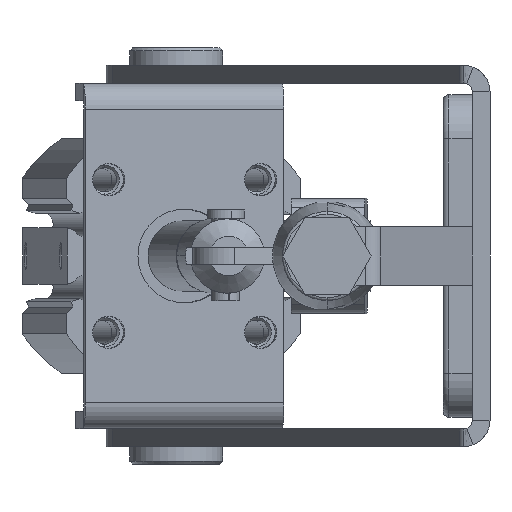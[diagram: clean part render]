
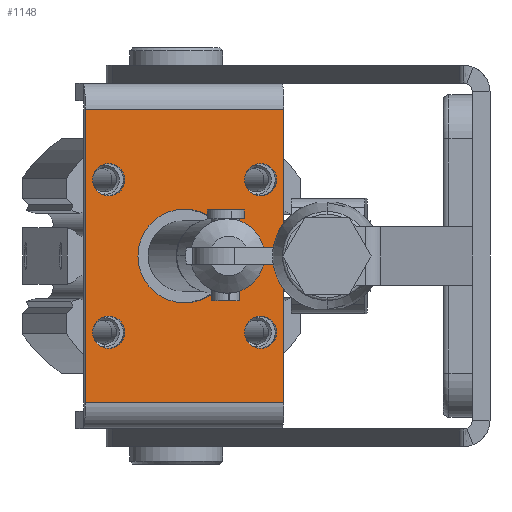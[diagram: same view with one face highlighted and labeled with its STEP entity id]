
A CAD part, left-side view. The second image highlights one B-rep face of the part: STEP entity #1148.
In plain terms, the highlighted planar face has unit normal (-0.996, -0.085, 0) as drawn and (0, -1, 0) by its records, which use the part's own axes.
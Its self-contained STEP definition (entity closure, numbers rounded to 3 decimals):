
#106 = ORIENTED_EDGE ( 'NONE', *, *, #12190, .F. ) ;
#239 = VERTEX_POINT ( 'NONE', #25806 ) ;
#877 = CARTESIAN_POINT ( 'NONE',  ( -13., -3., 13. ) ) ;
#901 = AXIS2_PLACEMENT_3D ( 'NONE', #18131, #5400, #20264 ) ;
#1128 = CARTESIAN_POINT ( 'NONE',  ( -25., -3., 17. ) ) ;
#1148 = ADVANCED_FACE ( 'NONE', ( #13704, #24336, #2394, #18689, #13063, #7397 ), #24212, .F. ) ;
#1550 = AXIS2_PLACEMENT_3D ( 'NONE', #23145, #10411, #25282 ) ;
#2208 = AXIS2_PLACEMENT_3D ( 'NONE', #20695, #7970, #22838 ) ;
#2394 = FACE_BOUND ( 'NONE', #10707, .T. ) ;
#2416 = VERTEX_POINT ( 'NONE', #21609 ) ;
#2542 = EDGE_CURVE ( 'NONE', #12567, #23686, #3305, .T. ) ;
#2618 = EDGE_LOOP ( 'NONE', ( #25121, #106, #24563, #9835 ) ) ;
#2992 = CIRCLE ( 'NONE', #16985, 2.75 ) ;
#2997 = DIRECTION ( 'NONE',  ( 0., 0., 1. ) ) ;
#3233 = DIRECTION ( 'NONE',  ( 1., 0., 0. ) ) ;
#3269 = ORIENTED_EDGE ( 'NONE', *, *, #20793, .T. ) ;
#3305 = CIRCLE ( 'NONE', #19838, 2.75 ) ;
#3397 = VERTEX_POINT ( 'NONE', #17470 ) ;
#3472 = DIRECTION ( 'NONE',  ( 0., 0., -1. ) ) ;
#3672 = CIRCLE ( 'NONE', #26827, 2.75 ) ;
#3705 = EDGE_CURVE ( 'NONE', #18474, #3397, #15908, .T. ) ;
#4147 = ORIENTED_EDGE ( 'NONE', *, *, #27205, .T. ) ;
#4602 = AXIS2_PLACEMENT_3D ( 'NONE', #20518, #7807, #22648 ) ;
#4885 = AXIS2_PLACEMENT_3D ( 'NONE', #19878, #7177, #22018 ) ;
#5179 = CARTESIAN_POINT ( 'NONE',  ( -13., -3., 13. ) ) ;
#5400 = DIRECTION ( 'NONE',  ( 0., 1., 0. ) ) ;
#5403 = VERTEX_POINT ( 'NONE', #22336 ) ;
#5545 = EDGE_CURVE ( 'NONE', #9099, #5403, #10581, .T. ) ;
#5771 = ORIENTED_EDGE ( 'NONE', *, *, #10231, .T. ) ;
#5989 = ORIENTED_EDGE ( 'NONE', *, *, #24398, .T. ) ;
#6046 = EDGE_CURVE ( 'NONE', #23794, #2416, #12554, .T. ) ;
#6079 = ORIENTED_EDGE ( 'NONE', *, *, #6046, .T. ) ;
#6201 = ORIENTED_EDGE ( 'NONE', *, *, #11785, .T. ) ;
#6525 = CARTESIAN_POINT ( 'NONE',  ( -13., -3., 10.25 ) ) ;
#7032 = CARTESIAN_POINT ( 'NONE',  ( -13., -3., 15.75 ) ) ;
#7177 = DIRECTION ( 'NONE',  ( 0., 1., 0. ) ) ;
#7333 = DIRECTION ( 'NONE',  ( 0., 0., 1. ) ) ;
#7397 = FACE_BOUND ( 'NONE', #16428, .T. ) ;
#7411 = CIRCLE ( 'NONE', #15868, 2.75 ) ;
#7807 = DIRECTION ( 'NONE',  ( 0., 1., 0. ) ) ;
#7970 = DIRECTION ( 'NONE',  ( 0., 1., 0. ) ) ;
#8014 = VECTOR ( 'NONE', #3472, 1000. ) ;
#9099 = VERTEX_POINT ( 'NONE', #21488 ) ;
#9511 = CARTESIAN_POINT ( 'NONE',  ( 13., -3., -15.75 ) ) ;
#9835 = ORIENTED_EDGE ( 'NONE', *, *, #5545, .F. ) ;
#10028 = CARTESIAN_POINT ( 'NONE',  ( 0., -3., 0. ) ) ;
#10064 = DIRECTION ( 'NONE',  ( 0., 1., 0. ) ) ;
#10231 = EDGE_CURVE ( 'NONE', #3397, #18474, #11085, .T. ) ;
#10411 = DIRECTION ( 'NONE',  ( 0., 1., 0. ) ) ;
#10581 = LINE ( 'NONE', #14452, #15554 ) ;
#10707 = EDGE_LOOP ( 'NONE', ( #5989, #6079 ) ) ;
#11085 = CIRCLE ( 'NONE', #901, 2.75 ) ;
#11214 = DIRECTION ( 'NONE',  ( 0., 0., 1. ) ) ;
#11785 = EDGE_CURVE ( 'NONE', #23694, #24086, #7411, .T. ) ;
#12083 = DIRECTION ( 'NONE',  ( 0., 1., 0. ) ) ;
#12177 = DIRECTION ( 'NONE',  ( 0., 0., 1. ) ) ;
#12190 = EDGE_CURVE ( 'NONE', #21740, #239, #12721, .T. ) ;
#12554 = CIRCLE ( 'NONE', #1550, 2.75 ) ;
#12567 = VERTEX_POINT ( 'NONE', #6525 ) ;
#12721 = LINE ( 'NONE', #18104, #23355 ) ;
#12866 = CARTESIAN_POINT ( 'NONE',  ( -13., -3., -15.75 ) ) ;
#13063 = FACE_OUTER_BOUND ( 'NONE', #2618, .T. ) ;
#13693 = EDGE_CURVE ( 'NONE', #23686, #12567, #2992, .T. ) ;
#13704 = FACE_BOUND ( 'NONE', #24946, .T. ) ;
#13809 = AXIS2_PLACEMENT_3D ( 'NONE', #10028, #24907, #12177 ) ;
#13861 = EDGE_CURVE ( 'NONE', #14943, #25589, #16633, .T. ) ;
#14004 = CIRCLE ( 'NONE', #4602, 2.75 ) ;
#14452 = CARTESIAN_POINT ( 'NONE',  ( -44.322, -3., -17. ) ) ;
#14771 = ORIENTED_EDGE ( 'NONE', *, *, #2542, .T. ) ;
#14847 = AXIS2_PLACEMENT_3D ( 'NONE', #16118, #23935, #11214 ) ;
#14943 = VERTEX_POINT ( 'NONE', #16933 ) ;
#15015 = VECTOR ( 'NONE', #25917, 1000. ) ;
#15143 = CARTESIAN_POINT ( 'NONE',  ( 25., -3., -10.757 ) ) ;
#15554 = VECTOR ( 'NONE', #27292, 1000. ) ;
#15735 = DIRECTION ( 'NONE',  ( 0., 1., 0. ) ) ;
#15868 = AXIS2_PLACEMENT_3D ( 'NONE', #22808, #10064, #24940 ) ;
#15908 = CIRCLE ( 'NONE', #4885, 2.75 ) ;
#16039 = ORIENTED_EDGE ( 'NONE', *, *, #13693, .T. ) ;
#16118 = CARTESIAN_POINT ( 'NONE',  ( 47.565, -3., -10.757 ) ) ;
#16428 = EDGE_LOOP ( 'NONE', ( #3269, #25348 ) ) ;
#16633 = CIRCLE ( 'NONE', #2208, 8. ) ;
#16933 = CARTESIAN_POINT ( 'NONE',  ( 0., -3., -8. ) ) ;
#16985 = AXIS2_PLACEMENT_3D ( 'NONE', #5179, #20044, #7333 ) ;
#17470 = CARTESIAN_POINT ( 'NONE',  ( 13., -3., 10.25 ) ) ;
#17830 = CIRCLE ( 'NONE', #13809, 8. ) ;
#18104 = CARTESIAN_POINT ( 'NONE',  ( -44.322, -3., 17. ) ) ;
#18131 = CARTESIAN_POINT ( 'NONE',  ( 13., -3., 13. ) ) ;
#18474 = VERTEX_POINT ( 'NONE', #24865 ) ;
#18689 = FACE_BOUND ( 'NONE', #26701, .T. ) ;
#19838 = AXIS2_PLACEMENT_3D ( 'NONE', #877, #15735, #2997 ) ;
#19878 = CARTESIAN_POINT ( 'NONE',  ( 13., -3., 13. ) ) ;
#20044 = DIRECTION ( 'NONE',  ( 0., 1., 0. ) ) ;
#20264 = DIRECTION ( 'NONE',  ( 0., 0., 1. ) ) ;
#20518 = CARTESIAN_POINT ( 'NONE',  ( 13., -3., -13. ) ) ;
#20633 = ORIENTED_EDGE ( 'NONE', *, *, #3705, .T. ) ;
#20640 = LINE ( 'NONE', #15143, #15015 ) ;
#20695 = CARTESIAN_POINT ( 'NONE',  ( 0., -3., 0. ) ) ;
#20793 = EDGE_CURVE ( 'NONE', #25589, #14943, #17830, .T. ) ;
#21488 = CARTESIAN_POINT ( 'NONE',  ( 25., -3., -17. ) ) ;
#21609 = CARTESIAN_POINT ( 'NONE',  ( 13., -3., -10.25 ) ) ;
#21740 = VERTEX_POINT ( 'NONE', #1128 ) ;
#22018 = DIRECTION ( 'NONE',  ( 0., 0., 1. ) ) ;
#22290 = LINE ( 'NONE', #22611, #8014 ) ;
#22336 = CARTESIAN_POINT ( 'NONE',  ( -25., -3., -17. ) ) ;
#22611 = CARTESIAN_POINT ( 'NONE',  ( -25., -3., -10.757 ) ) ;
#22648 = DIRECTION ( 'NONE',  ( 0., 0., 1. ) ) ;
#22808 = CARTESIAN_POINT ( 'NONE',  ( -13., -3., -13. ) ) ;
#22838 = DIRECTION ( 'NONE',  ( 0., 0., 1. ) ) ;
#23145 = CARTESIAN_POINT ( 'NONE',  ( 13., -3., -13. ) ) ;
#23355 = VECTOR ( 'NONE', #3233, 1000. ) ;
#23419 = EDGE_LOOP ( 'NONE', ( #20633, #5771 ) ) ;
#23438 = CARTESIAN_POINT ( 'NONE',  ( 0., -3., 8. ) ) ;
#23686 = VERTEX_POINT ( 'NONE', #7032 ) ;
#23694 = VERTEX_POINT ( 'NONE', #24013 ) ;
#23794 = VERTEX_POINT ( 'NONE', #9511 ) ;
#23935 = DIRECTION ( 'NONE',  ( 0., 1., 0. ) ) ;
#24013 = CARTESIAN_POINT ( 'NONE',  ( -13., -3., -10.25 ) ) ;
#24086 = VERTEX_POINT ( 'NONE', #12866 ) ;
#24212 = PLANE ( 'NONE',  #14847 ) ;
#24336 = FACE_BOUND ( 'NONE', #23419, .T. ) ;
#24398 = EDGE_CURVE ( 'NONE', #2416, #23794, #14004, .T. ) ;
#24563 = ORIENTED_EDGE ( 'NONE', *, *, #24855, .T. ) ;
#24641 = EDGE_CURVE ( 'NONE', #239, #9099, #20640, .T. ) ;
#24828 = CARTESIAN_POINT ( 'NONE',  ( -13., -3., -13. ) ) ;
#24855 = EDGE_CURVE ( 'NONE', #21740, #5403, #22290, .T. ) ;
#24865 = CARTESIAN_POINT ( 'NONE',  ( 13., -3., 15.75 ) ) ;
#24907 = DIRECTION ( 'NONE',  ( 0., 1., 0. ) ) ;
#24940 = DIRECTION ( 'NONE',  ( 0., 0., 1. ) ) ;
#24946 = EDGE_LOOP ( 'NONE', ( #16039, #14771 ) ) ;
#25121 = ORIENTED_EDGE ( 'NONE', *, *, #24641, .F. ) ;
#25282 = DIRECTION ( 'NONE',  ( 0., 0., 1. ) ) ;
#25348 = ORIENTED_EDGE ( 'NONE', *, *, #13861, .T. ) ;
#25589 = VERTEX_POINT ( 'NONE', #23438 ) ;
#25806 = CARTESIAN_POINT ( 'NONE',  ( 25., -3., 17. ) ) ;
#25917 = DIRECTION ( 'NONE',  ( 0., 0., -1. ) ) ;
#26701 = EDGE_LOOP ( 'NONE', ( #6201, #4147 ) ) ;
#26827 = AXIS2_PLACEMENT_3D ( 'NONE', #24828, #12083, #26982 ) ;
#26982 = DIRECTION ( 'NONE',  ( 0., 0., 1. ) ) ;
#27205 = EDGE_CURVE ( 'NONE', #24086, #23694, #3672, .T. ) ;
#27292 = DIRECTION ( 'NONE',  ( -1., 0., 0. ) ) ;
